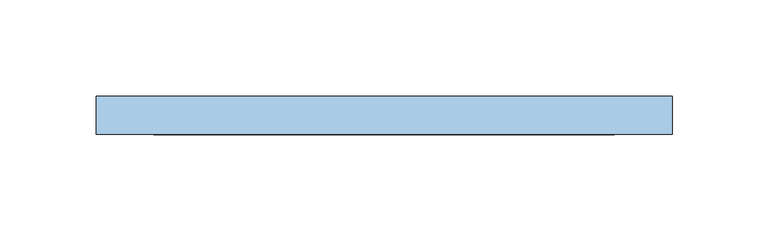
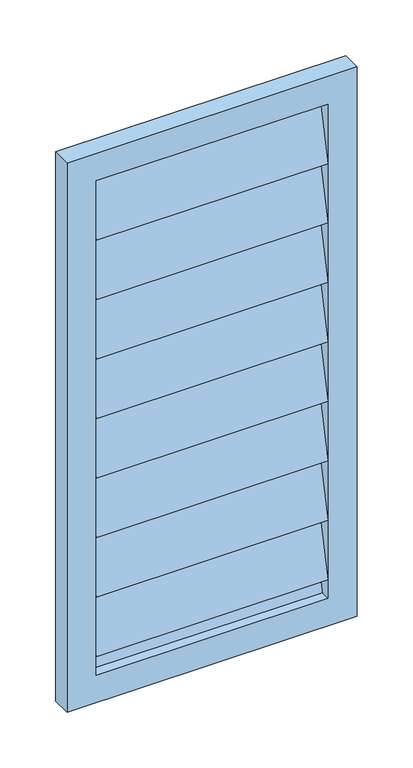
"""IFC4 building model written with IfcOpenShell, lengths in millimetres: window geometry, ARQ-Rejilla ventilación : ARQ-Rejilla ventilación."""

from ifc_helpers import new_model, si_unit, frame, origin, place, context, project, spatial, polyline, outline, extrude, source, transform, mapped, element, save


def window_13db4c4f(model_context):
    return source(origin(), model_context, "Body", "SweptSolid", [
        extrude(outline(polyline([(90.0, 980.0), (75.4626696, 915.0), (70.0, 915.0), (84.5373304, 980.0), (90.0, 980.0)])), frame((-120.0, 0.0, 0.0), z_axis=(1.0, 0.0, 0.0), x_axis=(0.0, 1.0, 0.0)), (0.0, 0.0, 1.0), 240.0),
        extrude(outline(polyline([(90.0, 915.0), (75.4626696, 850.0), (70.0, 850.0), (84.5373304, 915.0), (90.0, 915.0)])), frame((-120.0, 0.0, 0.0), z_axis=(1.0, 0.0, 0.0), x_axis=(0.0, 1.0, 0.0)), (0.0, 0.0, 1.0), 240.0),
        extrude(outline(polyline([(90.0, 850.0), (85.5269753, 830.0), (80.0643056, 830.0), (84.5373304, 850.0), (90.0, 850.0)])), frame((-120.0, 0.0, 0.0), z_axis=(1.0, 0.0, 0.0), x_axis=(0.0, 1.0, 0.0)), (0.0, 0.0, 1.0), 240.0),
        extrude(outline(polyline([(90.0, 1370.0), (75.4626696, 1305.0), (70.0, 1305.0), (84.5373304, 1370.0), (90.0, 1370.0)])), frame((-120.0, 0.0, 0.0), z_axis=(1.0, 0.0, 0.0), x_axis=(0.0, 1.0, 0.0)), (0.0, 0.0, 1.0), 240.0),
        extrude(outline(polyline([(90.0, 1305.0), (75.4626696, 1240.0), (70.0, 1240.0), (84.5373304, 1305.0), (90.0, 1305.0)])), frame((-120.0, 0.0, 0.0), z_axis=(1.0, 0.0, 0.0), x_axis=(0.0, 1.0, 0.0)), (0.0, 0.0, 1.0), 240.0),
        extrude(outline(polyline([(90.0, 1240.0), (75.4626696, 1175.0), (70.0, 1175.0), (84.5373304, 1240.0), (90.0, 1240.0)])), frame((-120.0, 0.0, 0.0), z_axis=(1.0, 0.0, 0.0), x_axis=(0.0, 1.0, 0.0)), (0.0, 0.0, 1.0), 240.0),
        extrude(outline(polyline([(90.0, 1175.0), (75.4626696, 1110.0), (70.0, 1110.0), (84.5373304, 1175.0), (90.0, 1175.0)])), frame((-120.0, 0.0, 0.0), z_axis=(1.0, 0.0, 0.0), x_axis=(0.0, 1.0, 0.0)), (0.0, 0.0, 1.0), 240.0),
        extrude(outline(polyline([(90.0, 1110.0), (75.4626696, 1045.0), (70.0, 1045.0), (84.5373304, 1110.0), (90.0, 1110.0)])), frame((-120.0, 0.0, 0.0), z_axis=(1.0, 0.0, 0.0), x_axis=(0.0, 1.0, 0.0)), (0.0, 0.0, 1.0), 240.0),
        extrude(outline(polyline([(90.0, 1045.0), (75.4626696, 980.0), (70.0, 980.0), (84.5373304, 1045.0), (90.0, 1045.0)])), frame((-120.0, 0.0, 0.0), z_axis=(1.0, 0.0, 0.0), x_axis=(0.0, 1.0, 0.0)), (0.0, 0.0, 1.0), 240.0),
        extrude(outline(polyline([(1400.0, -150.0), (800.0, -150.0), (800.0, 150.0), (1400.0, 150.0), (1400.0, -150.0)]), holes=[polyline([(1370.0, -120.0), (1370.0, 120.0), (830.0, 120.0), (830.0, -120.0), (1370.0, -120.0)])]), frame((0.0, 70.0, 0.0), z_axis=(0.0, 1.0, 0.0), x_axis=(0.0, 0.0, 1.0)), (0.0, 0.0, 1.0), 20.0),
    ])


if __name__ == "__main__":
    model = new_model("IFC4")
    model_context = context("Model", 3, world=origin())
    ifc_project = project(units=[si_unit("LENGTHUNIT", "METRE", prefix="MILLI")], contexts=[model_context])
    site = spatial("IfcSite", under=ifc_project)
    building = spatial("IfcBuilding", under=site)
    placement = place(None, origin())
    window_shape = window_13db4c4f(model_context)
    element("IfcWindow", 1, ObjectType="ARQ-Rejilla ventilación : ARQ-Rejilla ventilación", at=placement, inside=building, context=model_context, shape_type="MappedRepresentation", body=[
        mapped(window_shape, transform((0.0, 0.0, 0.0), x_axis=(1.0, 0.0, 0.0), y_axis=(0.0, 1.0, 0.0), z_axis=(0.0, 0.0, 1.0))),
    ])
    save(model, "model.ifc")
